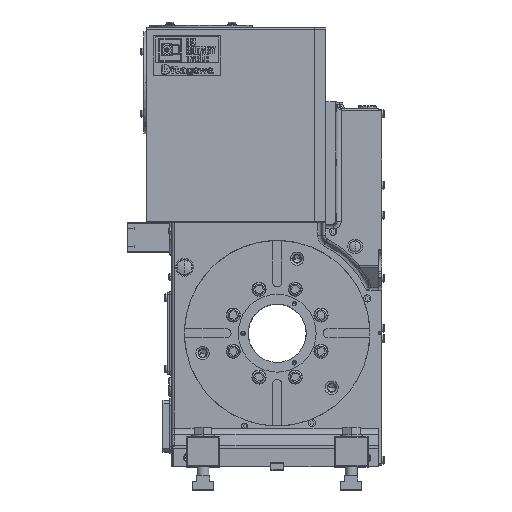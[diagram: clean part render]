
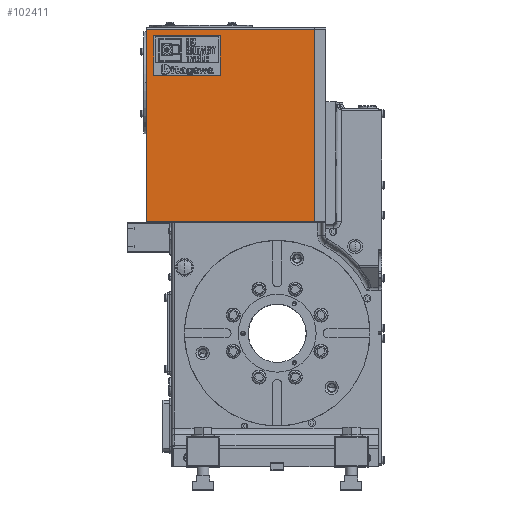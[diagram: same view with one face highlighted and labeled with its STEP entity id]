
A CAD part, top view. The second image highlights one B-rep face of the part: STEP entity #102411.
In plain terms, the highlighted planar face has unit normal (0, 0, 1).
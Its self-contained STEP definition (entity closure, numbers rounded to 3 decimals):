
#3354 = VECTOR ( 'NONE', #105085, 1000. ) ;
#7699 = CARTESIAN_POINT ( 'NONE',  ( -227., 261., 0. ) ) ;
#13711 = CARTESIAN_POINT ( 'NONE',  ( 0., 2., 0. ) ) ;
#14947 = ORIENTED_EDGE ( 'NONE', *, *, #107308, .T. ) ;
#17588 = VERTEX_POINT ( 'NONE', #7699 ) ;
#19482 = CARTESIAN_POINT ( 'NONE',  ( 0., 0., 0. ) ) ;
#34552 = CARTESIAN_POINT ( 'NONE',  ( -227., 2., 0. ) ) ;
#37638 = CARTESIAN_POINT ( 'NONE',  ( -227., 261., 0. ) ) ;
#37768 = LINE ( 'NONE', #51049, #60359 ) ;
#38164 = CARTESIAN_POINT ( 'NONE',  ( -227., 2., 0. ) ) ;
#41322 = DIRECTION ( 'NONE',  ( 0., -1., 0. ) ) ;
#43502 = CARTESIAN_POINT ( 'NONE',  ( 0., 261., 0. ) ) ;
#45652 = PLANE ( 'NONE',  #69595 ) ;
#46581 = VERTEX_POINT ( 'NONE', #34552 ) ;
#46769 = FACE_OUTER_BOUND ( 'NONE', #61698, .T. ) ;
#47814 = VERTEX_POINT ( 'NONE', #43502 ) ;
#48498 = DIRECTION ( 'NONE',  ( 0., -1., 0. ) ) ;
#51049 = CARTESIAN_POINT ( 'NONE',  ( -227., 0., 0. ) ) ;
#53200 = ORIENTED_EDGE ( 'NONE', *, *, #54019, .T. ) ;
#54019 = EDGE_CURVE ( 'NONE', #17588, #46581, #37768, .T. ) ;
#55118 = VECTOR ( 'NONE', #104972, 1000. ) ;
#55368 = DIRECTION ( 'NONE',  ( 0., -1., 0. ) ) ;
#60359 = VECTOR ( 'NONE', #41322, 1000. ) ;
#61698 = EDGE_LOOP ( 'NONE', ( #53200, #14947, #110922, #91917 ) ) ;
#62210 = VECTOR ( 'NONE', #48498, 1000. ) ;
#67238 = EDGE_CURVE ( 'NONE', #47814, #17588, #80697, .T. ) ;
#69595 = AXIS2_PLACEMENT_3D ( 'NONE', #112198, #113018, #55368 ) ;
#80158 = LINE ( 'NONE', #38164, #3354 ) ;
#80697 = LINE ( 'NONE', #37638, #55118 ) ;
#91917 = ORIENTED_EDGE ( 'NONE', *, *, #67238, .T. ) ;
#96273 = VERTEX_POINT ( 'NONE', #13711 ) ;
#99003 = EDGE_CURVE ( 'NONE', #47814, #96273, #113390, .T. ) ;
#102411 = ADVANCED_FACE ( 'NONE', ( #46769 ), #45652, .T. ) ;
#104972 = DIRECTION ( 'NONE',  ( -1., 0., 0. ) ) ;
#105085 = DIRECTION ( 'NONE',  ( 1., 0., 0. ) ) ;
#107308 = EDGE_CURVE ( 'NONE', #46581, #96273, #80158, .T. ) ;
#110922 = ORIENTED_EDGE ( 'NONE', *, *, #99003, .F. ) ;
#112198 = CARTESIAN_POINT ( 'NONE',  ( -227., 0., 0. ) ) ;
#113018 = DIRECTION ( 'NONE',  ( 0., 0., 1. ) ) ;
#113390 = LINE ( 'NONE', #19482, #62210 ) ;
